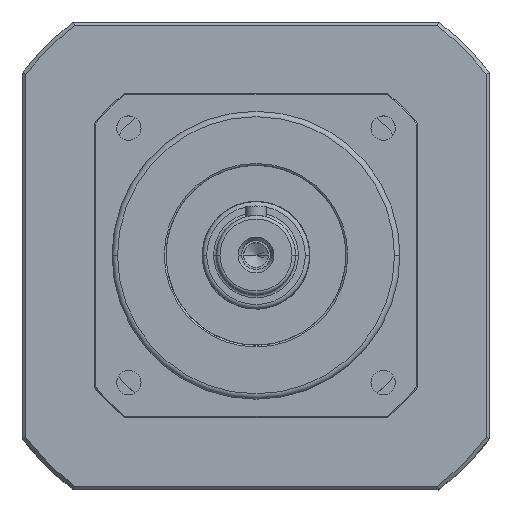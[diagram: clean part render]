
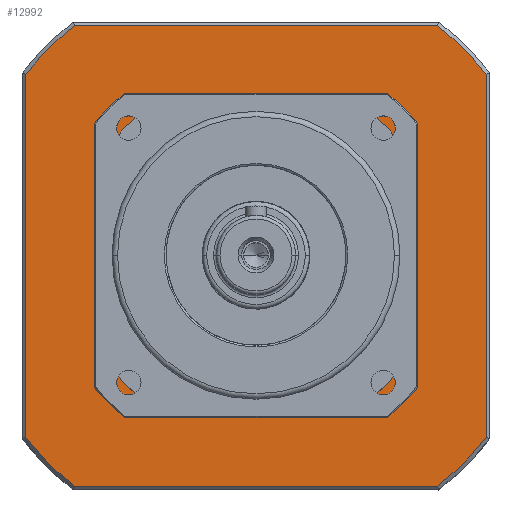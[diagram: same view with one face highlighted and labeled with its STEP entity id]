
A CAD part, top view. The second image highlights one B-rep face of the part: STEP entity #12992.
In plain terms, the highlighted planar face has unit normal (0, 0, 1).
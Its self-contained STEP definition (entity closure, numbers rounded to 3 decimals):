
#1311 = CARTESIAN_POINT ( 'NONE',  ( 50.457, -64.003, -90.5 ) ) ;
#1312 = CARTESIAN_POINT ( 'NONE',  ( 63.997, -50.464, -90.5 ) ) ;
#1313 = CARTESIAN_POINT ( 'NONE',  ( 64.003, 50.457, -90.5 ) ) ;
#1314 = CARTESIAN_POINT ( 'NONE',  ( 50.464, 63.997, -90.5 ) ) ;
#1315 = CARTESIAN_POINT ( 'NONE',  ( -50.457, 64.003, -90.5 ) ) ;
#1316 = CARTESIAN_POINT ( 'NONE',  ( -63.997, 50.464, -90.5 ) ) ;
#1317 = CARTESIAN_POINT ( 'NONE',  ( -64.003, -50.457, -90.5 ) ) ;
#1318 = CARTESIAN_POINT ( 'NONE',  ( -50.464, -63.997, -90.5 ) ) ;
#1319 = CARTESIAN_POINT ( 'NONE',  ( -44.999, 24.002, -90.5 ) ) ;
#1320 = CARTESIAN_POINT ( 'NONE',  ( -45.001, -23.998, -90.5 ) ) ;
#1321 = CARTESIAN_POINT ( 'NONE',  ( -23.998, 45.001, -90.5 ) ) ;
#1322 = CARTESIAN_POINT ( 'NONE',  ( 24.002, 44.999, -90.5 ) ) ;
#1323 = CARTESIAN_POINT ( 'NONE',  ( 45.001, 23.998, -90.5 ) ) ;
#1324 = CARTESIAN_POINT ( 'NONE',  ( 44.999, -24.002, -90.5 ) ) ;
#1325 = CARTESIAN_POINT ( 'NONE',  ( 23.998, -45.001, -90.5 ) ) ;
#1326 = CARTESIAN_POINT ( 'NONE',  ( -24.002, -44.999, -90.5 ) ) ;
#3331 = LINE ( 'NONE', #18677, #18743 ) ;
#3332 = LINE ( 'NONE', #18685, #18748 ) ;
#3333 = LINE ( 'NONE', #18690, #18751 ) ;
#3335 = LINE ( 'NONE', #18698, #18755 ) ;
#3336 = LINE ( 'NONE', #18700, #18756 ) ;
#3337 = LINE ( 'NONE', #18702, #18757 ) ;
#3339 = LINE ( 'NONE', #18707, #18760 ) ;
#3340 = LINE ( 'NONE', #18712, #18763 ) ;
#9269 = ORIENTED_EDGE ( 'NONE', *, *, #20327, .T. ) ;
#9270 = ORIENTED_EDGE ( 'NONE', *, *, #20328, .F. ) ;
#9271 = ORIENTED_EDGE ( 'NONE', *, *, #20329, .F. ) ;
#9272 = ORIENTED_EDGE ( 'NONE', *, *, #20326, .F. ) ;
#9273 = ORIENTED_EDGE ( 'NONE', *, *, #20330, .F. ) ;
#9274 = ORIENTED_EDGE ( 'NONE', *, *, #20331, .F. ) ;
#9275 = ORIENTED_EDGE ( 'NONE', *, *, #20332, .F. ) ;
#9276 = ORIENTED_EDGE ( 'NONE', *, *, #20333, .F. ) ;
#9277 = ORIENTED_EDGE ( 'NONE', *, *, #20334, .F. ) ;
#9634 = VERTEX_POINT ( 'NONE', #1311 ) ;
#9635 = VERTEX_POINT ( 'NONE', #1312 ) ;
#9636 = VERTEX_POINT ( 'NONE', #1313 ) ;
#9637 = VERTEX_POINT ( 'NONE', #1314 ) ;
#9638 = VERTEX_POINT ( 'NONE', #1315 ) ;
#9639 = VERTEX_POINT ( 'NONE', #1316 ) ;
#9640 = VERTEX_POINT ( 'NONE', #1317 ) ;
#9641 = VERTEX_POINT ( 'NONE', #1318 ) ;
#9642 = VERTEX_POINT ( 'NONE', #1319 ) ;
#9643 = VERTEX_POINT ( 'NONE', #1320 ) ;
#9644 = VERTEX_POINT ( 'NONE', #1321 ) ;
#9645 = VERTEX_POINT ( 'NONE', #1322 ) ;
#9646 = VERTEX_POINT ( 'NONE', #1323 ) ;
#9647 = VERTEX_POINT ( 'NONE', #1324 ) ;
#9648 = VERTEX_POINT ( 'NONE', #1325 ) ;
#9649 = VERTEX_POINT ( 'NONE', #1326 ) ;
#9846 = ORIENTED_EDGE ( 'NONE', *, *, #20320, .T. ) ;
#9847 = ORIENTED_EDGE ( 'NONE', *, *, #20321, .T. ) ;
#9848 = ORIENTED_EDGE ( 'NONE', *, *, #20319, .T. ) ;
#9849 = ORIENTED_EDGE ( 'NONE', *, *, #20322, .T. ) ;
#9850 = ORIENTED_EDGE ( 'NONE', *, *, #20323, .T. ) ;
#9851 = ORIENTED_EDGE ( 'NONE', *, *, #20324, .T. ) ;
#9852 = ORIENTED_EDGE ( 'NONE', *, *, #20325, .T. ) ;
#12934 = EDGE_LOOP ( 'NONE', ( #9846, #9848, #9847, #9849, #9850, #9851, #9852, #9269 ) ) ;
#12936 = EDGE_LOOP ( 'NONE', ( #9270, #9272, #9271, #9273, #9274, #9275, #9276, #9277 ) ) ;
#12992 = ADVANCED_FACE ( 'NONE', ( #17728, #17729 ), #16579, .T. ) ;
#16579 = PLANE ( 'NONE',  #16743 ) ;
#16580 = CARTESIAN_POINT ( 'NONE',  ( 0., 0., -90.5 ) ) ;
#16581 = DIRECTION ( 'NONE',  ( 0., 0., 1. ) ) ;
#16582 = DIRECTION ( 'NONE',  ( 1., 0., 0. ) ) ;
#16743 = AXIS2_PLACEMENT_3D ( 'NONE', #16580, #16581, #16582 ) ;
#17728 = FACE_OUTER_BOUND ( 'NONE', #12934, .T. ) ;
#17729 = FACE_BOUND ( 'NONE', #12936, .T. ) ;
#18677 = CARTESIAN_POINT ( 'NONE',  ( 64., -0.003, -90.5 ) ) ;
#18678 = DIRECTION ( 'NONE',  ( 0., 1., 0. ) ) ;
#18679 = CARTESIAN_POINT ( 'NONE',  ( 0., 0., -90.5 ) ) ;
#18680 = DIRECTION ( 'NONE',  ( 0., 0., 1. ) ) ;
#18681 = DIRECTION ( 'NONE',  ( 1., 0., 0. ) ) ;
#18682 = CARTESIAN_POINT ( 'NONE',  ( 0., 0., -90.5 ) ) ;
#18683 = DIRECTION ( 'NONE',  ( 0., 0., 1. ) ) ;
#18684 = DIRECTION ( 'NONE',  ( 1., 0., 0. ) ) ;
#18685 = CARTESIAN_POINT ( 'NONE',  ( 0.003, 64., -90.5 ) ) ;
#18686 = DIRECTION ( 'NONE',  ( -1., 0., 0. ) ) ;
#18687 = CARTESIAN_POINT ( 'NONE',  ( 0., 0., -90.5 ) ) ;
#18688 = DIRECTION ( 'NONE',  ( 0., 0., 1. ) ) ;
#18689 = DIRECTION ( 'NONE',  ( 1., 0., 0. ) ) ;
#18690 = CARTESIAN_POINT ( 'NONE',  ( -64., 0.003, -90.5 ) ) ;
#18691 = DIRECTION ( 'NONE',  ( 0., -1., 0. ) ) ;
#18692 = CARTESIAN_POINT ( 'NONE',  ( 0., 0., -90.5 ) ) ;
#18693 = DIRECTION ( 'NONE',  ( 0., 0., 1. ) ) ;
#18694 = DIRECTION ( 'NONE',  ( 1., 0., 0. ) ) ;
#18695 = CARTESIAN_POINT ( 'NONE',  ( 0., 0., -90.5 ) ) ;
#18696 = DIRECTION ( 'NONE',  ( 0., 0., 1. ) ) ;
#18697 = DIRECTION ( 'NONE',  ( 1., 0., 0. ) ) ;
#18698 = CARTESIAN_POINT ( 'NONE',  ( -0.003, -64., -90.5 ) ) ;
#18699 = DIRECTION ( 'NONE',  ( 1., 0., 0. ) ) ;
#18700 = CARTESIAN_POINT ( 'NONE',  ( -44.999, 24.002, -90.5 ) ) ;
#18701 = DIRECTION ( 'NONE',  ( 0., -1., 0. ) ) ;
#18702 = CARTESIAN_POINT ( 'NONE',  ( -23.998, 45.001, -90.5 ) ) ;
#18703 = DIRECTION ( 'NONE',  ( -1., 0., 0. ) ) ;
#18704 = CARTESIAN_POINT ( 'NONE',  ( 0., 0., -90.5 ) ) ;
#18705 = DIRECTION ( 'NONE',  ( 0., 0., 1. ) ) ;
#18706 = DIRECTION ( 'NONE',  ( 1., 0., 0. ) ) ;
#18707 = CARTESIAN_POINT ( 'NONE',  ( 45.001, 23.998, -90.5 ) ) ;
#18708 = DIRECTION ( 'NONE',  ( 0., 1., 0. ) ) ;
#18709 = CARTESIAN_POINT ( 'NONE',  ( 0., 0., -90.5 ) ) ;
#18710 = DIRECTION ( 'NONE',  ( 0., 0., 1. ) ) ;
#18711 = DIRECTION ( 'NONE',  ( 1., 0., 0. ) ) ;
#18712 = CARTESIAN_POINT ( 'NONE',  ( -24.002, -44.999, -90.5 ) ) ;
#18713 = DIRECTION ( 'NONE',  ( 1., 0., 0. ) ) ;
#18714 = CARTESIAN_POINT ( 'NONE',  ( 0., 0., -90.5 ) ) ;
#18715 = DIRECTION ( 'NONE',  ( 0., 0., 1. ) ) ;
#18716 = DIRECTION ( 'NONE',  ( 1., 0., 0. ) ) ;
#18736 = CIRCLE ( 'NONE', #18752, 81.5 ) ;
#18738 = CIRCLE ( 'NONE', #18749, 81.5 ) ;
#18740 = CIRCLE ( 'NONE', #18746, 81.5 ) ;
#18742 = CIRCLE ( 'NONE', #18744, 81.5 ) ;
#18743 = VECTOR ( 'NONE', #18678, 1000. ) ;
#18744 = AXIS2_PLACEMENT_3D ( 'NONE', #18679, #18680, #18681 ) ;
#18745 = CIRCLE ( 'NONE', #18754, 51. ) ;
#18746 = AXIS2_PLACEMENT_3D ( 'NONE', #18682, #18683, #18684 ) ;
#18747 = CIRCLE ( 'NONE', #18758, 51. ) ;
#18748 = VECTOR ( 'NONE', #18686, 1000. ) ;
#18749 = AXIS2_PLACEMENT_3D ( 'NONE', #18687, #18688, #18689 ) ;
#18750 = CIRCLE ( 'NONE', #18761, 51. ) ;
#18751 = VECTOR ( 'NONE', #18691, 1000. ) ;
#18752 = AXIS2_PLACEMENT_3D ( 'NONE', #18692, #18693, #18694 ) ;
#18753 = CIRCLE ( 'NONE', #18764, 51. ) ;
#18754 = AXIS2_PLACEMENT_3D ( 'NONE', #18695, #18696, #18697 ) ;
#18755 = VECTOR ( 'NONE', #18699, 1000. ) ;
#18756 = VECTOR ( 'NONE', #18701, 1000. ) ;
#18757 = VECTOR ( 'NONE', #18703, 1000. ) ;
#18758 = AXIS2_PLACEMENT_3D ( 'NONE', #18704, #18705, #18706 ) ;
#18760 = VECTOR ( 'NONE', #18708, 1000. ) ;
#18761 = AXIS2_PLACEMENT_3D ( 'NONE', #18709, #18710, #18711 ) ;
#18763 = VECTOR ( 'NONE', #18713, 1000. ) ;
#18764 = AXIS2_PLACEMENT_3D ( 'NONE', #18714, #18715, #18716 ) ;
#20319 = EDGE_CURVE ( 'NONE', #9635, #9636, #3331, .T. ) ;
#20320 = EDGE_CURVE ( 'NONE', #9634, #9635, #18742, .T. ) ;
#20321 = EDGE_CURVE ( 'NONE', #9636, #9637, #18740, .T. ) ;
#20322 = EDGE_CURVE ( 'NONE', #9637, #9638, #3332, .T. ) ;
#20323 = EDGE_CURVE ( 'NONE', #9638, #9639, #18738, .T. ) ;
#20324 = EDGE_CURVE ( 'NONE', #9639, #9640, #3333, .T. ) ;
#20325 = EDGE_CURVE ( 'NONE', #9640, #9641, #18736, .T. ) ;
#20326 = EDGE_CURVE ( 'NONE', #9644, #9642, #18745, .T. ) ;
#20327 = EDGE_CURVE ( 'NONE', #9641, #9634, #3335, .T. ) ;
#20328 = EDGE_CURVE ( 'NONE', #9642, #9643, #3336, .T. ) ;
#20329 = EDGE_CURVE ( 'NONE', #9645, #9644, #3337, .T. ) ;
#20330 = EDGE_CURVE ( 'NONE', #9646, #9645, #18747, .T. ) ;
#20331 = EDGE_CURVE ( 'NONE', #9647, #9646, #3339, .T. ) ;
#20332 = EDGE_CURVE ( 'NONE', #9648, #9647, #18750, .T. ) ;
#20333 = EDGE_CURVE ( 'NONE', #9649, #9648, #3340, .T. ) ;
#20334 = EDGE_CURVE ( 'NONE', #9643, #9649, #18753, .T. ) ;
